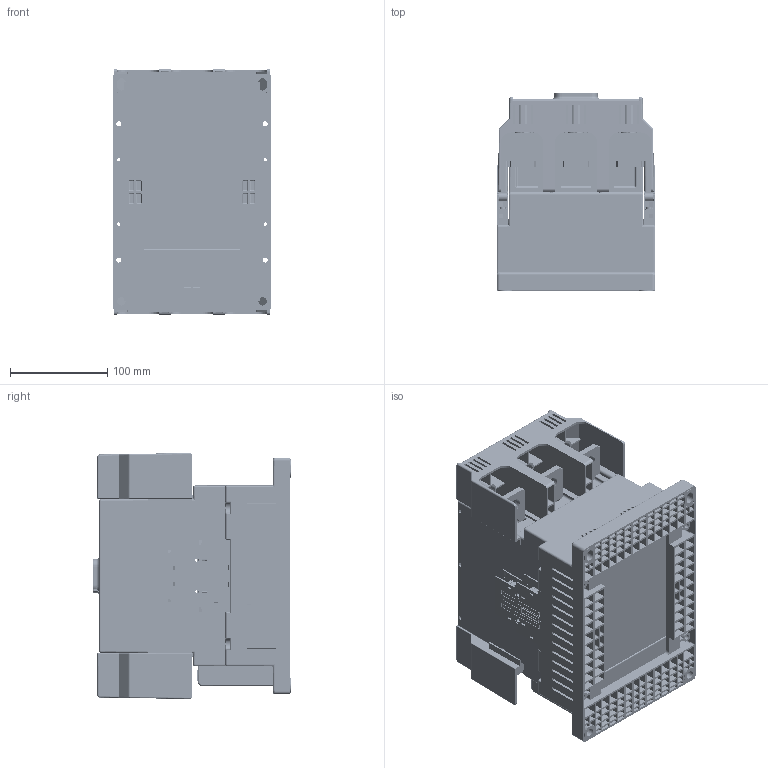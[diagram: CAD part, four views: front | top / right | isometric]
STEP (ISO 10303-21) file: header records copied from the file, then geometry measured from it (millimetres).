
FILE_DESCRIPTION(/* description */ (''),/* implementation_level */ '2;1');
FILE_NAME(/* name */ 'HGC500AF.stp',/* time_stamp */ '2017-09-21T13:41:51+09:00',/* author */ (''),/* organization */ (''),/* preprocessor_version */ 'ST-DEVELOPER v15',/* originating_system */ 'SIEMENS PLM Software NX 9.0',/* authorisation */ '');
FILE_SCHEMA (('CONFIG_CONTROL_DESIGN'));
Products named in the file (1): HGC500AF
Bounding box: 163 x 203.3 x 252.99 mm (x, y, z)
Volume: 4617292.2 mm3; surface area: 1103808.2 mm2
Topology: 41 solids, 45 shells, 10062 faces, 27262 edges, 17503 vertices
Faces by surface type: plane 6668, cylinder 2517, bspline 279, sphere 220, torus 214, cone 86, extrusion 78
Full cylindrical faces by diameter (mm): 3.4 x6, 4 x2, 4.2 x8, 4.3 x4, 4.8 x4, 5.1 x12, 5.2 x14, 6 x4, 6.35 x4, 6.4 x4, 6.6 x8, 7 x2, 8.6 x6, 11.8 x12, 13 x6, 14 x6, 15.6 x2
Entity records: 336560 total; most frequent: CARTESIAN_POINT 87951, ORIENTED_EDGE 53718, DIRECTION 48266, EDGE_CURVE 26859, VECTOR 19966, LINE 19888, VERTEX_POINT 17424, AXIS2_PLACEMENT_3D 14150
